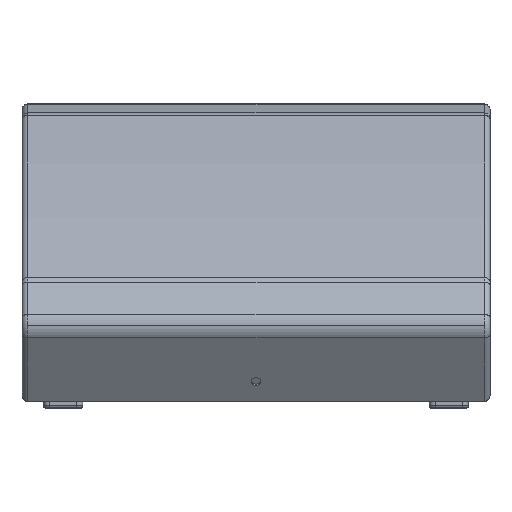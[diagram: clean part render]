
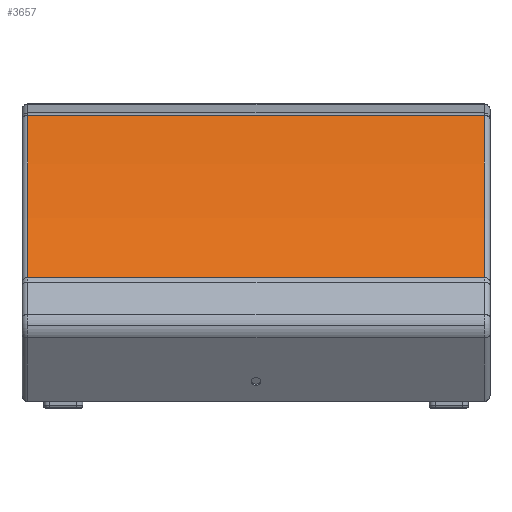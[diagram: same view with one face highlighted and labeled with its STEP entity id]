
A CAD part, top view. The second image highlights one B-rep face of the part: STEP entity #3657.
In plain terms, the highlighted cylindrical face has radius 1500 mm (diameter 3000 mm), a partial arc.
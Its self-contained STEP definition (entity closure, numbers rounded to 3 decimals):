
#66 = EDGE_CURVE ( 'NONE', #466, #5562, #3751, .T. ) ;
#79 = DIRECTION ( 'NONE',  ( 0., 0., 1. ) ) ;
#314 = DIRECTION ( 'NONE',  ( 1., 0., 0. ) ) ;
#456 = DIRECTION ( 'NONE',  ( -1., 0., 0. ) ) ;
#466 = VERTEX_POINT ( 'NONE', #3947 ) ;
#630 = AXIS2_PLACEMENT_3D ( 'NONE', #2456, #5401, #79 ) ;
#718 = AXIS2_PLACEMENT_3D ( 'NONE', #1719, #314, #813 ) ;
#775 = CIRCLE ( 'NONE', #6094, 1500. ) ;
#786 = CARTESIAN_POINT ( 'NONE',  ( 250., 306.065, -80.351 ) ) ;
#813 = DIRECTION ( 'NONE',  ( 0., 0., -1. ) ) ;
#983 = CARTESIAN_POINT ( 'NONE',  ( 250., 131.923, 168.351 ) ) ;
#1115 = EDGE_LOOP ( 'NONE', ( #1831, #2311, #3459, #2826 ) ) ;
#1431 = VERTEX_POINT ( 'NONE', #5812 ) ;
#1719 = CARTESIAN_POINT ( 'NONE',  ( -243.65, -1003.426, -811.947 ) ) ;
#1831 = ORIENTED_EDGE ( 'NONE', *, *, #66, .T. ) ;
#2249 = CIRCLE ( 'NONE', #718, 1500. ) ;
#2311 = ORIENTED_EDGE ( 'NONE', *, *, #6163, .T. ) ;
#2456 = CARTESIAN_POINT ( 'NONE',  ( 250., -1003.426, -811.947 ) ) ;
#2501 = FACE_OUTER_BOUND ( 'NONE', #1115, .T. ) ;
#2765 = VECTOR ( 'NONE', #6036, 1000. ) ;
#2801 = DIRECTION ( 'NONE',  ( 0., 0., -1. ) ) ;
#2826 = ORIENTED_EDGE ( 'NONE', *, *, #3516, .T. ) ;
#3274 = CARTESIAN_POINT ( 'NONE',  ( 243.65, -1003.426, -811.947 ) ) ;
#3459 = ORIENTED_EDGE ( 'NONE', *, *, #5808, .F. ) ;
#3516 = EDGE_CURVE ( 'NONE', #4472, #466, #775, .T. ) ;
#3657 = ADVANCED_FACE ( 'NONE', ( #2501 ), #5150, .T. ) ;
#3751 = LINE ( 'NONE', #786, #2765 ) ;
#3860 = DIRECTION ( 'NONE',  ( -1., 0., 0. ) ) ;
#3947 = CARTESIAN_POINT ( 'NONE',  ( 243.65, 306.065, -80.351 ) ) ;
#4472 = VERTEX_POINT ( 'NONE', #4964 ) ;
#4964 = CARTESIAN_POINT ( 'NONE',  ( 243.65, 131.923, 168.351 ) ) ;
#5047 = LINE ( 'NONE', #983, #6026 ) ;
#5150 = CYLINDRICAL_SURFACE ( 'NONE', #630, 1500. ) ;
#5401 = DIRECTION ( 'NONE',  ( -1., 0., 0. ) ) ;
#5562 = VERTEX_POINT ( 'NONE', #6047 ) ;
#5808 = EDGE_CURVE ( 'NONE', #4472, #1431, #5047, .T. ) ;
#5812 = CARTESIAN_POINT ( 'NONE',  ( -243.65, 131.923, 168.351 ) ) ;
#6026 = VECTOR ( 'NONE', #3860, 1000. ) ;
#6036 = DIRECTION ( 'NONE',  ( -1., 0., 0. ) ) ;
#6047 = CARTESIAN_POINT ( 'NONE',  ( -243.65, 306.065, -80.351 ) ) ;
#6094 = AXIS2_PLACEMENT_3D ( 'NONE', #3274, #456, #2801 ) ;
#6163 = EDGE_CURVE ( 'NONE', #5562, #1431, #2249, .T. ) ;
